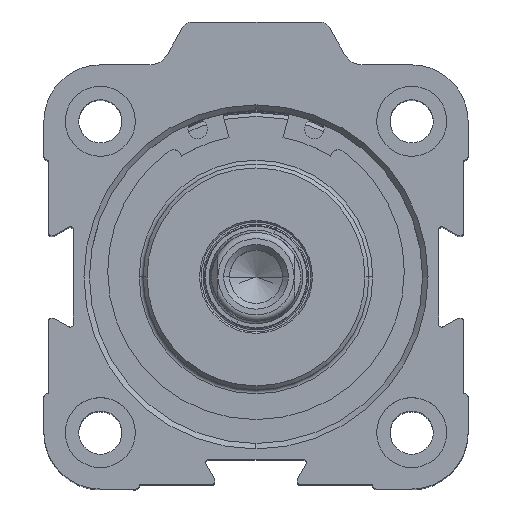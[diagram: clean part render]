
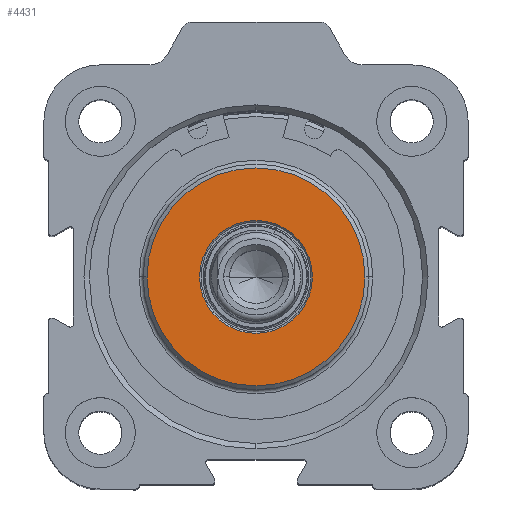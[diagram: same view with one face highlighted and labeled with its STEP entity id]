
A CAD part, top view. The second image highlights one B-rep face of the part: STEP entity #4431.
In plain terms, the highlighted planar face has unit normal (0, 0, 1) as drawn and (-1, 0, 0) by its records, which use the part's own axes.
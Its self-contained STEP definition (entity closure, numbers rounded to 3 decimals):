
#413 = AXIS2_PLACEMENT_3D ( 'NONE', #6527, #4806, #6450 ) ;
#479 = ORIENTED_EDGE ( 'NONE', *, *, #10844, .T. ) ;
#916 = VERTEX_POINT ( 'NONE', #8479 ) ;
#1359 = AXIS2_PLACEMENT_3D ( 'NONE', #8037, #9834, #4691 ) ;
#1627 = CIRCLE ( 'NONE', #413, 7.25 ) ;
#3307 = CIRCLE ( 'NONE', #7948, 14. ) ;
#3732 = AXIS2_PLACEMENT_3D ( 'NONE', #7540, #10162, #8475 ) ;
#4166 = ORIENTED_EDGE ( 'NONE', *, *, #7430, .T. ) ;
#4431 = ADVANCED_FACE ( 'NONE', ( #6885, #5131 ), #10204, .F. ) ;
#4691 = DIRECTION ( 'NONE',  ( 0., 0., -1. ) ) ;
#4806 = DIRECTION ( 'NONE',  ( 1., 0., 0. ) ) ;
#5055 = EDGE_LOOP ( 'NONE', ( #479, #4166 ) ) ;
#5131 = FACE_OUTER_BOUND ( 'NONE', #6953, .T. ) ;
#5229 = CIRCLE ( 'NONE', #1359, 14. ) ;
#5670 = AXIS2_PLACEMENT_3D ( 'NONE', #6842, #10405, #7812 ) ;
#6396 = CARTESIAN_POINT ( 'NONE',  ( 0., 0., -14. ) ) ;
#6400 = DIRECTION ( 'NONE',  ( 0., 0., -1. ) ) ;
#6450 = DIRECTION ( 'NONE',  ( 0., 0., -1. ) ) ;
#6527 = CARTESIAN_POINT ( 'NONE',  ( 0., 0., 0. ) ) ;
#6842 = CARTESIAN_POINT ( 'NONE',  ( 0., 0., 0. ) ) ;
#6876 = VERTEX_POINT ( 'NONE', #6396 ) ;
#6885 = FACE_BOUND ( 'NONE', #5055, .T. ) ;
#6953 = EDGE_LOOP ( 'NONE', ( #10852, #7045 ) ) ;
#7045 = ORIENTED_EDGE ( 'NONE', *, *, #10758, .T. ) ;
#7430 = EDGE_CURVE ( 'NONE', #11105, #11016, #8747, .T. ) ;
#7540 = CARTESIAN_POINT ( 'NONE',  ( 0., 14.5, 0. ) ) ;
#7812 = DIRECTION ( 'NONE',  ( 0., 0., -1. ) ) ;
#7948 = AXIS2_PLACEMENT_3D ( 'NONE', #10729, #8934, #6400 ) ;
#8037 = CARTESIAN_POINT ( 'NONE',  ( 0., 0., 0. ) ) ;
#8475 = DIRECTION ( 'NONE',  ( 0., 0., -1. ) ) ;
#8479 = CARTESIAN_POINT ( 'NONE',  ( 0., 0., 14. ) ) ;
#8747 = CIRCLE ( 'NONE', #5670, 7.25 ) ;
#8934 = DIRECTION ( 'NONE',  ( -1., 0., 0. ) ) ;
#9531 = CARTESIAN_POINT ( 'NONE',  ( 0., 0., -7.25 ) ) ;
#9834 = DIRECTION ( 'NONE',  ( -1., 0., 0. ) ) ;
#10162 = DIRECTION ( 'NONE',  ( 1., 0., 0. ) ) ;
#10204 = PLANE ( 'NONE',  #3732 ) ;
#10275 = EDGE_CURVE ( 'NONE', #6876, #916, #3307, .T. ) ;
#10405 = DIRECTION ( 'NONE',  ( 1., 0., 0. ) ) ;
#10729 = CARTESIAN_POINT ( 'NONE',  ( 0., 0., 0. ) ) ;
#10758 = EDGE_CURVE ( 'NONE', #916, #6876, #5229, .T. ) ;
#10844 = EDGE_CURVE ( 'NONE', #11016, #11105, #1627, .T. ) ;
#10852 = ORIENTED_EDGE ( 'NONE', *, *, #10275, .T. ) ;
#11010 = CARTESIAN_POINT ( 'NONE',  ( 0., 0., 7.25 ) ) ;
#11016 = VERTEX_POINT ( 'NONE', #11010 ) ;
#11105 = VERTEX_POINT ( 'NONE', #9531 ) ;
